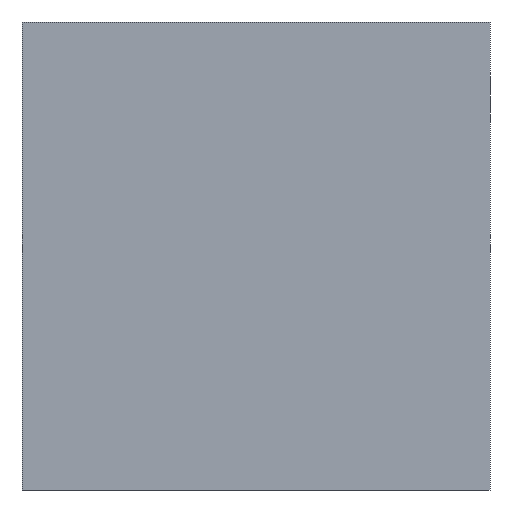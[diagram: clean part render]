
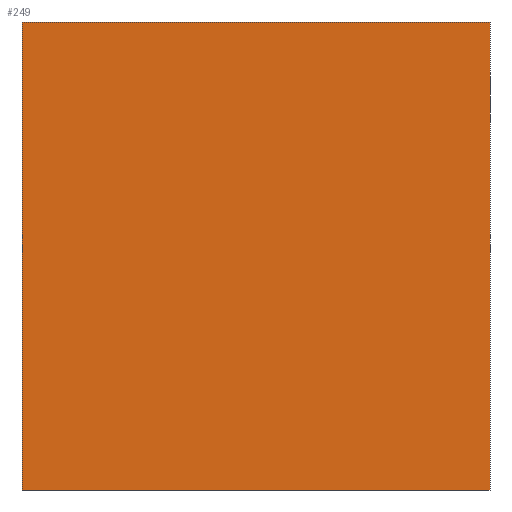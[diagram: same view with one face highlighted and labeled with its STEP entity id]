
A CAD part, left-side view. The second image highlights one B-rep face of the part: STEP entity #249.
In plain terms, the highlighted planar face has unit normal (-1, 0, 0).
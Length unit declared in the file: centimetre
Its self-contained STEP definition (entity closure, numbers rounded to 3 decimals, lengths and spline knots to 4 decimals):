
#2 = VERTEX_POINT ( 'NONE', #63 ) ;
#37 = DIRECTION ( 'NONE',  ( 0., -1., 0. ) ) ;
#45 = ORIENTED_EDGE ( 'NONE', *, *, #303, .F. ) ;
#46 = DIRECTION ( 'NONE',  ( 0., 0., -1. ) ) ;
#59 = ORIENTED_EDGE ( 'NONE', *, *, #375, .T. ) ;
#63 = CARTESIAN_POINT ( 'NONE',  ( 0., 0., 0. ) ) ;
#69 = LINE ( 'NONE', #355, #221 ) ;
#71 = CARTESIAN_POINT ( 'NONE',  ( 0., 0., 1000. ) ) ;
#74 = CARTESIAN_POINT ( 'NONE',  ( 0., 0., 1000. ) ) ;
#86 = EDGE_CURVE ( 'NONE', #91, #2, #254, .T. ) ;
#91 = VERTEX_POINT ( 'NONE', #74 ) ;
#126 = EDGE_CURVE ( 'NONE', #312, #2, #69, .T. ) ;
#140 = DIRECTION ( 'NONE',  ( 0., -1., 0. ) ) ;
#178 = AXIS2_PLACEMENT_3D ( 'NONE', #233, #208, #402 ) ;
#181 = EDGE_LOOP ( 'NONE', ( #286, #271, #45, #59 ) ) ;
#192 = DIRECTION ( 'NONE',  ( 0., 0., -1. ) ) ;
#203 = LINE ( 'NONE', #206, #279 ) ;
#206 = CARTESIAN_POINT ( 'NONE',  ( 0., 1000., 1000. ) ) ;
#208 = DIRECTION ( 'NONE',  ( 1., 0., 0. ) ) ;
#221 = VECTOR ( 'NONE', #37, 100. ) ;
#233 = CARTESIAN_POINT ( 'NONE',  ( 0., 1000., 1000. ) ) ;
#249 = ADVANCED_FACE ( 'NONE', ( #259 ), #373, .F. ) ;
#251 = VERTEX_POINT ( 'NONE', #330 ) ;
#254 = LINE ( 'NONE', #71, #291 ) ;
#256 = VECTOR ( 'NONE', #140, 100. ) ;
#259 = FACE_OUTER_BOUND ( 'NONE', #181, .T. ) ;
#269 = CARTESIAN_POINT ( 'NONE',  ( 0., 1000., 1000. ) ) ;
#271 = ORIENTED_EDGE ( 'NONE', *, *, #86, .F. ) ;
#276 = CARTESIAN_POINT ( 'NONE',  ( 0., 1000., 0. ) ) ;
#279 = VECTOR ( 'NONE', #46, 100. ) ;
#286 = ORIENTED_EDGE ( 'NONE', *, *, #126, .T. ) ;
#291 = VECTOR ( 'NONE', #192, 100. ) ;
#297 = LINE ( 'NONE', #269, #256 ) ;
#303 = EDGE_CURVE ( 'NONE', #251, #91, #297, .T. ) ;
#312 = VERTEX_POINT ( 'NONE', #276 ) ;
#330 = CARTESIAN_POINT ( 'NONE',  ( 0., 1000., 1000. ) ) ;
#355 = CARTESIAN_POINT ( 'NONE',  ( 0., 1000., 0. ) ) ;
#373 = PLANE ( 'NONE',  #178 ) ;
#375 = EDGE_CURVE ( 'NONE', #251, #312, #203, .T. ) ;
#402 = DIRECTION ( 'NONE',  ( 0., 0., -1. ) ) ;
